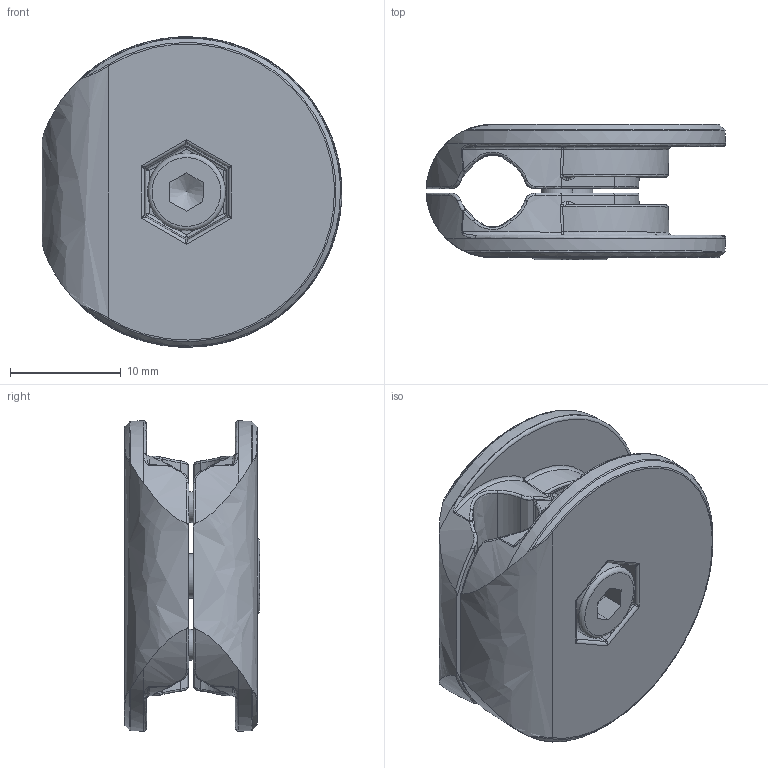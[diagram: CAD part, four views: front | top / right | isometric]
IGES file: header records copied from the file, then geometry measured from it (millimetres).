
Global section: file name: 153-13562_MBD F 10ST2 (Sensoclip F 10); native system: Autodesk Inventor 2018; preprocessor: unknown; author: ss; date: 20181212.085829; units: millimetre
Bounding box: 27 x 12.2 x 28 mm (x, y, z)
Volume: 4124.3 mm3; surface area: 3909.3 mm2
Topology: 4 solids, 4 shells, 268 faces, 629 edges, 352 vertices
Faces by surface type: bspline 268
